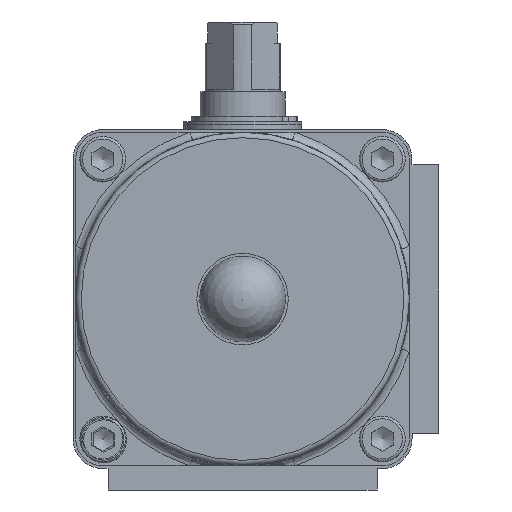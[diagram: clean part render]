
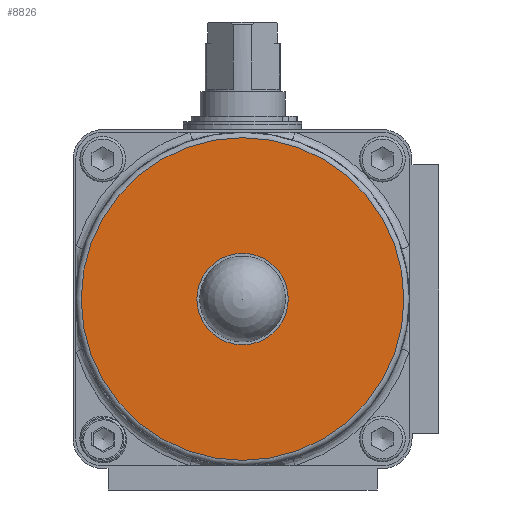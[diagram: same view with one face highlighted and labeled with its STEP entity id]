
A CAD part, left-side view. The second image highlights one B-rep face of the part: STEP entity #8826.
In plain terms, the highlighted planar face has unit normal (-1, 0, 0).
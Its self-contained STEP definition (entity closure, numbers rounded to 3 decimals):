
#8799=CARTESIAN_POINT('',(-58.95,0.,0.));
#8800=DIRECTION('',(1.0,0.0,0.0));
#8801=DIRECTION('',(0.0,0.0,-1.0));
#8802=AXIS2_PLACEMENT_3D('',#8799,#8800,#8801);
#8803=PLANE('',#8802);
#8804=CARTESIAN_POINT('',(-58.95,0.,30.0));
#8805=VERTEX_POINT('',#8804);
#8806=CARTESIAN_POINT('',(-58.95,0.,0.));
#8807=DIRECTION('',(1.0,0.0,0.0));
#8808=DIRECTION('',(0.0,0.0,-1.0));
#8809=AXIS2_PLACEMENT_3D('',#8806,#8807,#8808);
#8810=CIRCLE('',#8809,30.0);
#8811=EDGE_CURVE('',#8805,#8805,#8810,.T.);
#8812=ORIENTED_EDGE('',*,*,#8811,.F.);
#8813=EDGE_LOOP('',(#8812));
#8814=FACE_OUTER_BOUND('',#8813,.T.);
#8815=CARTESIAN_POINT('',(-58.95,0.,6.004));
#8816=VERTEX_POINT('',#8815);
#8817=CARTESIAN_POINT('',(-58.95,0.,0.));
#8818=DIRECTION('',(-1.0,0.0,0.0));
#8819=DIRECTION('',(0.0,0.0,-1.0));
#8820=AXIS2_PLACEMENT_3D('',#8817,#8818,#8819);
#8821=CIRCLE('',#8820,6.004);
#8822=EDGE_CURVE('',#8816,#8816,#8821,.T.);
#8823=ORIENTED_EDGE('',*,*,#8822,.F.);
#8824=EDGE_LOOP('',(#8823));
#8825=FACE_BOUND('',#8824,.T.);
#8826=ADVANCED_FACE('',(#8814,#8825),#8803,.F.);
